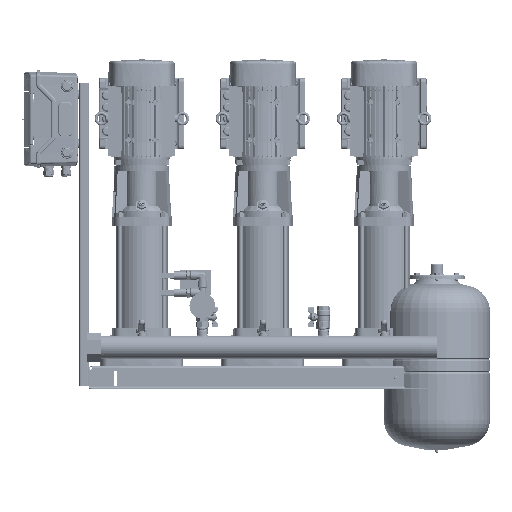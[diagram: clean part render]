
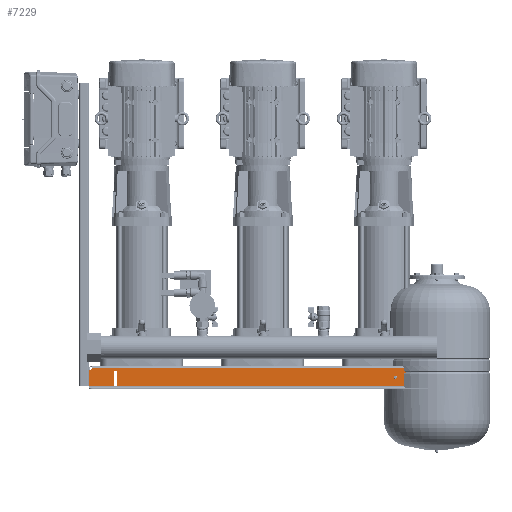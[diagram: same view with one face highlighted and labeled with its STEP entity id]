
A CAD part, front view. The second image highlights one B-rep face of the part: STEP entity #7229.
In plain terms, the highlighted planar face has unit normal (0, -1, 0) as drawn and (0, 0, 1) by its records, which use the part's own axes.
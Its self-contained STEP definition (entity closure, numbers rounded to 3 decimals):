
#6407=CARTESIAN_POINT('Vertex',(-8.029,-6.,110.)) ;
#6488=CARTESIAN_POINT('Vertex',(-911.971,-6.,110.)) ;
#6622=CARTESIAN_POINT('Axis2P3D Location',(-1.877,-2.661,110.)) ;
#6626=CARTESIAN_POINT('Vertex',(-3.699,-9.42,110.)) ;
#6664=CARTESIAN_POINT('Vertex',(-916.301,-9.42,110.)) ;
#6667=CARTESIAN_POINT('Axis2P3D Location',(-918.123,-2.661,110.)) ;
#6688=CARTESIAN_POINT('Vertex',(0.,-14.248,110.)) ;
#6698=CARTESIAN_POINT('Axis2P3D Location',(-5.,-14.248,110.)) ;
#6726=CARTESIAN_POINT('Vertex',(-920.,-14.248,110.)) ;
#6729=CARTESIAN_POINT('Axis2P3D Location',(-915.,-14.248,110.)) ;
#6746=CARTESIAN_POINT('Line Origine',(-849.,-12.,110.)) ;
#6750=CARTESIAN_POINT('Vertex',(-853.,-12.,110.)) ;
#6752=CARTESIAN_POINT('Vertex',(-845.,-12.,110.)) ;
#6790=CARTESIAN_POINT('Vertex',(-853.,-52.,110.)) ;
#6800=CARTESIAN_POINT('Line Origine',(-853.,-32.,110.)) ;
#6817=CARTESIAN_POINT('Line Origine',(-845.,-32.,110.)) ;
#6821=CARTESIAN_POINT('Vertex',(-845.,-52.,110.)) ;
#6848=CARTESIAN_POINT('Line Origine',(-849.,-52.,110.)) ;
#6870=CARTESIAN_POINT('Line Origine',(-67.,-32.,110.)) ;
#6874=CARTESIAN_POINT('Vertex',(-67.,-12.,110.)) ;
#6876=CARTESIAN_POINT('Vertex',(-67.,-52.,110.)) ;
#6914=CARTESIAN_POINT('Vertex',(-75.,-12.,110.)) ;
#6924=CARTESIAN_POINT('Line Origine',(-71.,-12.,110.)) ;
#6941=CARTESIAN_POINT('Line Origine',(-71.,-52.,110.)) ;
#6945=CARTESIAN_POINT('Vertex',(-75.,-52.,110.)) ;
#6977=CARTESIAN_POINT('Line Origine',(-75.,-32.,110.)) ;
#6998=CARTESIAN_POINT('Vertex',(0.,-54.,110.)) ;
#7008=CARTESIAN_POINT('Line Origine',(0.,-34.124,110.)) ;
#7025=CARTESIAN_POINT('Axis2P3D Location',(-110.,-30.,110.)) ;
#7029=CARTESIAN_POINT('Vertex',(-105.75,-30.,110.)) ;
#7031=CARTESIAN_POINT('Vertex',(-114.25,-30.,110.)) ;
#7065=CARTESIAN_POINT('Axis2P3D Location',(-110.,-30.,110.)) ;
#7082=CARTESIAN_POINT('Line Origine',(-460.,-6.,110.)) ;
#7099=CARTESIAN_POINT('Line Origine',(-920.,-34.124,110.)) ;
#7103=CARTESIAN_POINT('Vertex',(-920.,-54.,110.)) ;
#7193=CARTESIAN_POINT('Axis2P3D Location',(-460.,0.,110.)) ;
#7198=CARTESIAN_POINT('Line Origine',(-460.,-54.,110.)) ;
#6748=VECTOR('Line Direction',#6747,1.) ;
#6802=VECTOR('Line Direction',#6801,1.) ;
#6819=VECTOR('Line Direction',#6818,1.) ;
#6850=VECTOR('Line Direction',#6849,1.) ;
#6872=VECTOR('Line Direction',#6871,1.) ;
#6926=VECTOR('Line Direction',#6925,1.) ;
#6943=VECTOR('Line Direction',#6942,1.) ;
#6979=VECTOR('Line Direction',#6978,1.) ;
#7010=VECTOR('Line Direction',#7009,1.) ;
#7084=VECTOR('Line Direction',#7083,1.) ;
#7101=VECTOR('Line Direction',#7100,1.) ;
#7200=VECTOR('Line Direction',#7199,1.) ;
#6623=DIRECTION('Axis2P3D Direction',(0.,0.,1.)) ;
#6668=DIRECTION('Axis2P3D Direction',(0.,0.,1.)) ;
#6699=DIRECTION('Axis2P3D Direction',(0.,0.,1.)) ;
#6730=DIRECTION('Axis2P3D Direction',(0.,0.,1.)) ;
#6747=DIRECTION('Vector Direction',(1.,0.,0.)) ;
#6801=DIRECTION('Vector Direction',(0.,-1.,0.)) ;
#6818=DIRECTION('Vector Direction',(0.,-1.,0.)) ;
#6849=DIRECTION('Vector Direction',(1.,0.,0.)) ;
#6871=DIRECTION('Vector Direction',(0.,-1.,0.)) ;
#6925=DIRECTION('Vector Direction',(1.,0.,0.)) ;
#6942=DIRECTION('Vector Direction',(1.,0.,0.)) ;
#6978=DIRECTION('Vector Direction',(0.,-1.,0.)) ;
#7009=DIRECTION('Vector Direction',(0.,1.,0.)) ;
#7026=DIRECTION('Axis2P3D Direction',(0.,0.,1.)) ;
#7066=DIRECTION('Axis2P3D Direction',(0.,0.,1.)) ;
#7083=DIRECTION('Vector Direction',(-1.,0.,0.)) ;
#7100=DIRECTION('Vector Direction',(0.,1.,0.)) ;
#7194=DIRECTION('Axis2P3D Direction',(0.,0.,1.)) ;
#7195=DIRECTION('Axis2P3D XDirection',(-1.,0.,0.)) ;
#7199=DIRECTION('Vector Direction',(1.,0.,0.)) ;
#6624=AXIS2_PLACEMENT_3D('Circle Axis2P3D',#6622,#6623,$) ;
#6669=AXIS2_PLACEMENT_3D('Circle Axis2P3D',#6667,#6668,$) ;
#6700=AXIS2_PLACEMENT_3D('Circle Axis2P3D',#6698,#6699,$) ;
#6731=AXIS2_PLACEMENT_3D('Circle Axis2P3D',#6729,#6730,$) ;
#7027=AXIS2_PLACEMENT_3D('Circle Axis2P3D',#7025,#7026,$) ;
#7067=AXIS2_PLACEMENT_3D('Circle Axis2P3D',#7065,#7066,$) ;
#7196=AXIS2_PLACEMENT_3D('Plane Axis2P3D',#7193,#7194,#7195) ;
#6749=LINE('Line',#6746,#6748) ;
#6803=LINE('Line',#6800,#6802) ;
#6820=LINE('Line',#6817,#6819) ;
#6851=LINE('Line',#6848,#6850) ;
#6873=LINE('Line',#6870,#6872) ;
#6927=LINE('Line',#6924,#6926) ;
#6944=LINE('Line',#6941,#6943) ;
#6980=LINE('Line',#6977,#6979) ;
#7011=LINE('Line',#7008,#7010) ;
#7085=LINE('Line',#7082,#7084) ;
#7102=LINE('Line',#7099,#7101) ;
#7201=LINE('Line',#7198,#7200) ;
#6625=CIRCLE('generated circle',#6624,7.) ;
#6670=CIRCLE('generated circle',#6669,7.) ;
#6701=CIRCLE('generated circle',#6700,5.) ;
#6732=CIRCLE('generated circle',#6731,5.) ;
#7028=CIRCLE('generated circle',#7027,4.25) ;
#7068=CIRCLE('generated circle',#7067,4.25) ;
#7197=PLANE('',#7196) ;
#7218=FACE_BOUND('',#7213,.T.) ;
#7224=FACE_BOUND('',#7219,.T.) ;
#7228=FACE_BOUND('',#7225,.T.) ;
#6628=EDGE_CURVE('',#6408,#6627,#6625,.T.) ;
#6671=EDGE_CURVE('',#6665,#6489,#6670,.T.) ;
#6702=EDGE_CURVE('',#6689,#6627,#6701,.T.) ;
#6733=EDGE_CURVE('',#6665,#6727,#6732,.T.) ;
#6754=EDGE_CURVE('',#6751,#6753,#6749,.T.) ;
#6804=EDGE_CURVE('',#6751,#6791,#6803,.T.) ;
#6823=EDGE_CURVE('',#6753,#6822,#6820,.T.) ;
#6852=EDGE_CURVE('',#6791,#6822,#6851,.T.) ;
#6878=EDGE_CURVE('',#6875,#6877,#6873,.T.) ;
#6928=EDGE_CURVE('',#6915,#6875,#6927,.T.) ;
#6947=EDGE_CURVE('',#6946,#6877,#6944,.T.) ;
#6981=EDGE_CURVE('',#6915,#6946,#6980,.T.) ;
#7012=EDGE_CURVE('',#6999,#6689,#7011,.T.) ;
#7033=EDGE_CURVE('',#7030,#7032,#7028,.T.) ;
#7069=EDGE_CURVE('',#7032,#7030,#7068,.T.) ;
#7086=EDGE_CURVE('',#6489,#6408,#7085,.F.) ;
#7105=EDGE_CURVE('',#7104,#6727,#7102,.T.) ;
#7202=EDGE_CURVE('',#7104,#6999,#7201,.T.) ;
#7204=ORIENTED_EDGE('',*,*,#6628,.F.) ;
#7205=ORIENTED_EDGE('',*,*,#7086,.F.) ;
#7206=ORIENTED_EDGE('',*,*,#6671,.F.) ;
#7207=ORIENTED_EDGE('',*,*,#6733,.T.) ;
#7208=ORIENTED_EDGE('',*,*,#7105,.F.) ;
#7209=ORIENTED_EDGE('',*,*,#7202,.T.) ;
#7210=ORIENTED_EDGE('',*,*,#7012,.T.) ;
#7211=ORIENTED_EDGE('',*,*,#6702,.T.) ;
#7214=ORIENTED_EDGE('',*,*,#6754,.T.) ;
#7215=ORIENTED_EDGE('',*,*,#6823,.T.) ;
#7216=ORIENTED_EDGE('',*,*,#6852,.F.) ;
#7217=ORIENTED_EDGE('',*,*,#6804,.F.) ;
#7220=ORIENTED_EDGE('',*,*,#6878,.T.) ;
#7221=ORIENTED_EDGE('',*,*,#6947,.F.) ;
#7222=ORIENTED_EDGE('',*,*,#6981,.F.) ;
#7223=ORIENTED_EDGE('',*,*,#6928,.T.) ;
#7226=ORIENTED_EDGE('',*,*,#7033,.F.) ;
#7227=ORIENTED_EDGE('',*,*,#7069,.F.) ;
#7203=EDGE_LOOP('',(#7204,#7205,#7206,#7207,#7208,#7209,#7210,#7211)) ;
#7213=EDGE_LOOP('',(#7214,#7215,#7216,#7217)) ;
#7219=EDGE_LOOP('',(#7220,#7221,#7222,#7223)) ;
#7225=EDGE_LOOP('',(#7226,#7227)) ;
#6408=VERTEX_POINT('',#6407) ;
#6489=VERTEX_POINT('',#6488) ;
#6627=VERTEX_POINT('',#6626) ;
#6665=VERTEX_POINT('',#6664) ;
#6689=VERTEX_POINT('',#6688) ;
#6727=VERTEX_POINT('',#6726) ;
#6751=VERTEX_POINT('',#6750) ;
#6753=VERTEX_POINT('',#6752) ;
#6791=VERTEX_POINT('',#6790) ;
#6822=VERTEX_POINT('',#6821) ;
#6875=VERTEX_POINT('',#6874) ;
#6877=VERTEX_POINT('',#6876) ;
#6915=VERTEX_POINT('',#6914) ;
#6946=VERTEX_POINT('',#6945) ;
#6999=VERTEX_POINT('',#6998) ;
#7030=VERTEX_POINT('',#7029) ;
#7032=VERTEX_POINT('',#7031) ;
#7104=VERTEX_POINT('',#7103) ;
#7229=ADVANCED_FACE('PartBody',(#7212,#7218,#7224,#7228),#7197,.T.) ;
#7212=FACE_OUTER_BOUND('',#7203,.T.) ;
